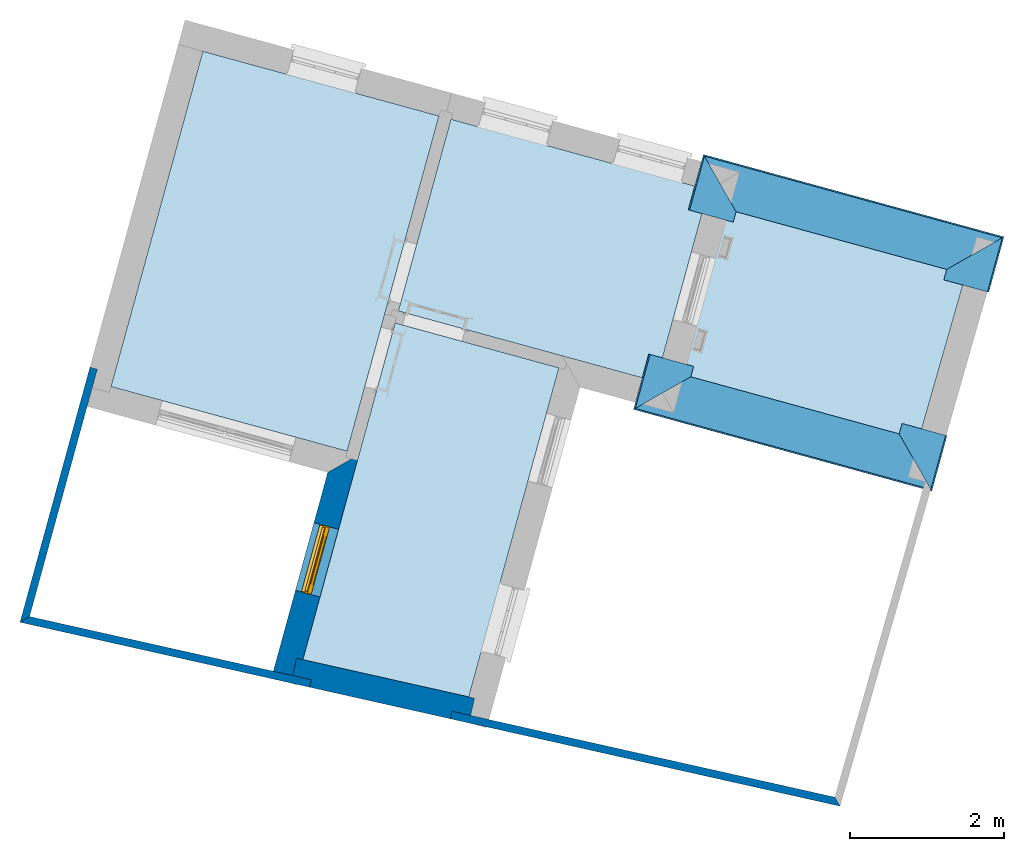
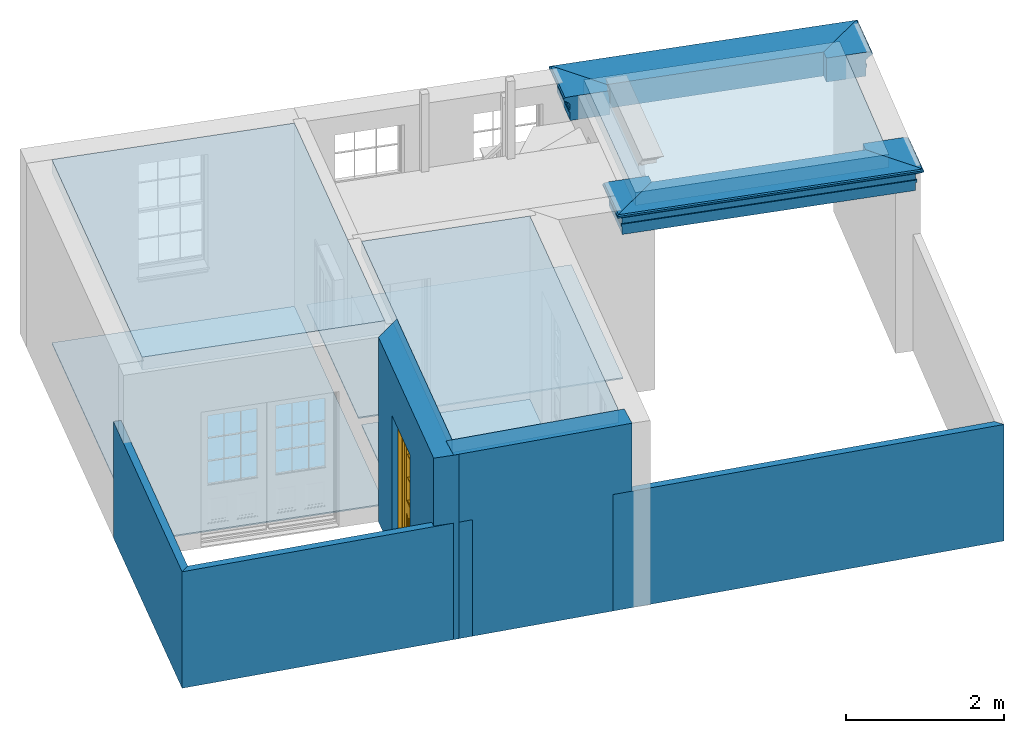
# One storey, part 1 of 7: 6 beams, 6 slabs, 5 walls, 1 door, 1 opening.
"""IFC4 building model written with IfcOpenShell, lengths in metres."""

from ifc_helpers import new_model, si_unit, frame, origin, origin_with_axes, place, context, subcontext, project, spatial, polyline, outline, extrude, clip, halfspace, faceted_brep, source, transform, mapped, material, layer, layer_set, layer_usage, material_profile, profile_set, profile_usage, type_object, type_shapes, element, fill, save


model = new_model("IFC4")

# Units and contexts
model_context = context("Model", 3, world=origin_with_axes())
body_context = subcontext(model_context, "Body", "Model", "MODEL_VIEW")
ifc_project = project(units=[si_unit("PLANEANGLEUNIT", "RADIAN"), si_unit("MASSUNIT", "GRAM", prefix="KILO"), si_unit("FORCEUNIT", "NEWTON", prefix="KILO"), si_unit("LENGTHUNIT", "METRE"), si_unit("AREAUNIT", "SQUARE_METRE"), si_unit("VOLUMEUNIT", "CUBIC_METRE")], contexts=[model_context, model_context])

# Sites, building, storey
site_1_placement = place(None, origin_with_axes())
site_1 = spatial("IfcSite", under=ifc_project, at=site_1_placement, Name="Tamar")
site_2_placement = place(site_1_placement, origin_with_axes())
site_2 = spatial("IfcSite", under=site_1, at=site_2_placement, Name="Site plot-29", CompositionType="ELEMENT")
building_placement = place(None, origin_with_axes())
building = spatial("IfcBuilding", under=site_2, at=building_placement, Name="Building plot-29", CompositionType="ELEMENT")
storey_placement = place(None, frame((0.0, 0.0, 25.0), z_axis=(0.0, 0.0, 1.0), x_axis=(1.0, 0.0, 0.0)))
storey = spatial("IfcBuildingStorey", under=building, at=storey_placement, Name="plot-29 0", CompositionType="ELEMENT", Elevation=25.0)

# Beams
ifc_material_profile_1 = material_profile(None, outline(polyline([(-0.26, 0.0), (-0.26, -0.37), (0.26, -0.37), (0.26, -0.235), (0.275, -0.235), (0.275, -0.2), (0.26, -0.2), (0.26, -0.11), (0.275, -0.11), (0.278, -0.098), (0.284, -0.089), (0.293, -0.083), (0.305, -0.08), (0.305, -0.065), (0.315, -0.065), (0.326, -0.063), (0.336, -0.056), (0.343, -0.047), (0.345, -0.035), (0.343, -0.023), (0.336, -0.014), (0.326, -0.007), (0.315, -0.005), (0.26, 0.0), (-0.26, 0.0)])))
ifc_profile_set_1 = profile_set([ifc_material_profile_1])
ifc_profile_usage_1 = profile_usage(ifc_profile_set_1)
beam_type_1 = type_object("IfcBeamType", Name="external beam_0", PredefinedType="NOTDEFINED", material=ifc_profile_set_1)
beam_1_placement = place(storey_placement, frame((276.869402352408, 260.588744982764, 2.85), z_axis=(0.264255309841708, 0.964452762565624, 0.0), x_axis=(-0.964452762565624, 0.264255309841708, 0.0)))
element("IfcBeam", 1, at=beam_1_placement, inside=storey, type_object=beam_type_1, material=ifc_profile_usage_1, Name="external beam_0", context=body_context, shape_type="Clipping", body=[
    clip(clip(extrude(outline(polyline([(-0.26, 0.0), (-0.26, -0.37), (0.26, -0.37), (0.26, -0.235), (0.275, -0.235), (0.275, -0.2), (0.26, -0.2), (0.26, -0.11), (0.275, -0.11), (0.278, -0.098), (0.284, -0.089), (0.293, -0.083), (0.305, -0.08), (0.305, -0.065), (0.315, -0.065), (0.326, -0.063), (0.336, -0.056), (0.343, -0.047), (0.345, -0.035), (0.343, -0.023), (0.336, -0.014), (0.326, -0.007), (0.315, -0.005), (0.26, 0.0), (-0.26, 0.0)])), origin_with_axes(), (0.0, 0.0, 1.0), 2.39999999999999), halfspace(frame((0.0, 0.0, 1.39999999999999), z_axis=(-6.12323399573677e-17, 0.0, -1.0), x_axis=(0.0, 1.0, 0.0)), True)), halfspace(frame((0.0, 0.0, 1.0), z_axis=(-0.707106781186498, 0.0, -0.707106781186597), x_axis=(0.0, 1.0, 0.0)), False)),
])
ifc_profile_usage_2 = profile_usage(ifc_profile_set_1)
beam_2_placement = place(storey_placement, frame((281.301153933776, 260.411324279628, 2.85), z_axis=(-0.964452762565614, 0.264255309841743, 0.0), x_axis=(-0.264255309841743, -0.964452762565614, 0.0)))
element("IfcBeam", 2, at=beam_2_placement, inside=storey, type_object=beam_type_1, material=ifc_profile_usage_2, Name="external beam_0", context=body_context, shape_type="Clipping", body=[
    clip(clip(extrude(outline(polyline([(-0.26, 0.0), (-0.26, -0.37), (0.26, -0.37), (0.26, -0.235), (0.275, -0.235), (0.275, -0.2), (0.26, -0.2), (0.26, -0.11), (0.275, -0.11), (0.278, -0.098), (0.284, -0.089), (0.293, -0.083), (0.305, -0.08), (0.305, -0.065), (0.315, -0.065), (0.326, -0.063), (0.336, -0.056), (0.343, -0.047), (0.345, -0.035), (0.343, -0.023), (0.336, -0.014), (0.326, -0.007), (0.315, -0.005), (0.26, 0.0), (-0.26, 0.0)])), origin_with_axes(), (0.0, 0.0, 1.0), 5.32109941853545), halfspace(frame((0.0, 0.0, 4.32109941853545), z_axis=(0.707106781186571, 0.0, -0.707106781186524), x_axis=(0.0, 1.0, 0.0)), True)), halfspace(frame((0.0, 0.0, 1.0), z_axis=(-0.707106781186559, 0.0, -0.707106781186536), x_axis=(0.0, 1.0, 0.0)), False)),
])
ifc_profile_usage_3 = profile_usage(ifc_profile_set_1)
beam_3_placement = place(storey_placement, frame((280.706658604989, 262.025813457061, 2.85), z_axis=(-0.264255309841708, -0.964452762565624, 0.0), x_axis=(0.964452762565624, -0.264255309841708, 0.0)))
element("IfcBeam", 3, at=beam_3_placement, inside=storey, type_object=beam_type_1, material=ifc_profile_usage_3, Name="external beam_0", context=body_context, shape_type="Clipping", body=[
    clip(clip(extrude(outline(polyline([(-0.26, 0.0), (-0.26, -0.37), (0.26, -0.37), (0.26, -0.235), (0.275, -0.235), (0.275, -0.2), (0.26, -0.2), (0.26, -0.11), (0.275, -0.11), (0.278, -0.098), (0.284, -0.089), (0.293, -0.083), (0.305, -0.08), (0.305, -0.065), (0.315, -0.065), (0.326, -0.063), (0.336, -0.056), (0.343, -0.047), (0.345, -0.035), (0.343, -0.023), (0.336, -0.014), (0.326, -0.007), (0.315, -0.005), (0.26, 0.0), (-0.26, 0.0)])), origin_with_axes(), (0.0, 0.0, 1.0), 2.39999999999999), halfspace(frame((0.0, 0.0, 1.39999999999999), z_axis=(0.707106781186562, 0.0, -0.707106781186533), x_axis=(0.0, 1.0, 0.0)), True)), halfspace(frame((0.0, 0.0, 1.0), z_axis=(1.60812264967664e-16, 0.0, -1.0), x_axis=(0.0, 1.0, 0.0)), False)),
])
ifc_material_profile_2 = material_profile(None, outline(polyline([(-0.26, 0.0), (-0.26, -0.37), (0.26, -0.37), (0.26, -0.235), (0.275, -0.235), (0.275, -0.2), (0.26, -0.2), (0.26, -0.11), (0.275, -0.11), (0.278, -0.098), (0.284, -0.089), (0.293, -0.083), (0.305, -0.08), (0.305, -0.065), (0.315, -0.065), (0.326, -0.063), (0.336, -0.056), (0.343, -0.047), (0.345, -0.035), (0.343, -0.023), (0.336, -0.014), (0.326, -0.007), (0.315, -0.005), (0.26, 0.0), (-0.26, 0.0)])))
ifc_profile_set_2 = profile_set([ifc_material_profile_2])
ifc_profile_usage_4 = profile_usage(ifc_profile_set_2)
beam_type_2 = type_object("IfcBeamType", Name="external beam_0", PredefinedType="NOTDEFINED", material=ifc_profile_set_2)
beam_4_placement = place(storey_placement, frame((281.354520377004, 264.273621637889, 2.85), z_axis=(-0.264255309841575, -0.96445276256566, 0.0), x_axis=(0.96445276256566, -0.264255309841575, 0.0)))
element("IfcBeam", 4, at=beam_4_placement, inside=storey, type_object=beam_type_2, material=ifc_profile_usage_4, Name="external beam_0", context=body_context, shape_type="Clipping", body=[
    clip(clip(extrude(outline(polyline([(-0.26, 0.0), (-0.26, -0.37), (0.26, -0.37), (0.26, -0.235), (0.275, -0.235), (0.275, -0.2), (0.26, -0.2), (0.26, -0.11), (0.275, -0.11), (0.278, -0.098), (0.284, -0.089), (0.293, -0.083), (0.305, -0.08), (0.305, -0.065), (0.315, -0.065), (0.326, -0.063), (0.336, -0.056), (0.343, -0.047), (0.345, -0.035), (0.343, -0.023), (0.336, -0.014), (0.326, -0.007), (0.315, -0.005), (0.26, 0.0), (-0.26, 0.0)])), origin_with_axes(), (0.0, 0.0, 1.0), 2.39999999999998), halfspace(frame((0.0, 0.0, 1.39999999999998), z_axis=(1.23732655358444e-14, 0.0, -1.0), x_axis=(0.0, 1.0, 0.0)), True)), halfspace(frame((0.0, 0.0, 1.0), z_axis=(-0.707106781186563, 0.0, -0.707106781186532), x_axis=(0.0, 1.0, 0.0)), False)),
])
ifc_profile_usage_5 = profile_usage(ifc_profile_set_2)
beam_5_placement = place(storey_placement, frame((276.893028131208, 264.459191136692, 2.85), z_axis=(0.964452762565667, -0.264255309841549, 0.0), x_axis=(0.264255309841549, 0.964452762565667, 0.0)))
element("IfcBeam", 5, at=beam_5_placement, inside=storey, type_object=beam_type_2, material=ifc_profile_usage_5, Name="external beam_0", context=body_context, shape_type="Clipping", body=[
    clip(clip(extrude(outline(polyline([(-0.26, 0.0), (-0.26, -0.37), (0.26, -0.37), (0.26, -0.235), (0.275, -0.235), (0.275, -0.2), (0.26, -0.2), (0.26, -0.11), (0.275, -0.11), (0.278, -0.098), (0.284, -0.089), (0.293, -0.083), (0.305, -0.08), (0.305, -0.065), (0.315, -0.065), (0.326, -0.063), (0.336, -0.056), (0.343, -0.047), (0.345, -0.035), (0.343, -0.023), (0.336, -0.014), (0.326, -0.007), (0.315, -0.005), (0.26, 0.0), (-0.26, 0.0)])), origin_with_axes(), (0.0, 0.0, 1.0), 5.35193624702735), halfspace(frame((0.0, 0.0, 4.35193624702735), z_axis=(0.707106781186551, 0.0, -0.707106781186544), x_axis=(0.0, 1.0, 0.0)), True)), halfspace(frame((0.0, 0.0, 1.0), z_axis=(-0.707106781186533, 0.0, -0.707106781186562), x_axis=(0.0, 1.0, 0.0)), False)),
])
ifc_profile_usage_6 = profile_usage(ifc_profile_set_2)
beam_6_placement = place(storey_placement, frame((277.487523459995, 262.844701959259, 2.85), z_axis=(0.264255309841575, 0.96445276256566, 0.0), x_axis=(-0.96445276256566, 0.264255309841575, 0.0)))
element("IfcBeam", 6, at=beam_6_placement, inside=storey, type_object=beam_type_2, material=ifc_profile_usage_6, Name="external beam_0", context=body_context, shape_type="Clipping", body=[
    clip(clip(extrude(outline(polyline([(-0.26, 0.0), (-0.26, -0.37), (0.26, -0.37), (0.26, -0.235), (0.275, -0.235), (0.275, -0.2), (0.26, -0.2), (0.26, -0.11), (0.275, -0.11), (0.278, -0.098), (0.284, -0.089), (0.293, -0.083), (0.305, -0.08), (0.305, -0.065), (0.315, -0.065), (0.326, -0.063), (0.336, -0.056), (0.343, -0.047), (0.345, -0.035), (0.343, -0.023), (0.336, -0.014), (0.326, -0.007), (0.315, -0.005), (0.26, 0.0), (-0.26, 0.0)])), origin_with_axes(), (0.0, 0.0, 1.0), 2.39999999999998), halfspace(frame((0.0, 0.0, 1.39999999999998), z_axis=(0.707106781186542, 0.0, -0.707106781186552), x_axis=(0.0, 1.0, 0.0)), True)), halfspace(frame((0.0, 0.0, 1.0), z_axis=(1.23732655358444e-14, 0.0, -1.0), x_axis=(0.0, 1.0, 0.0)), False)),
])

# Slabs
slab_1_placement = place(storey_placement, frame((275.742884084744, 261.851314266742, 2.65)))
element("IfcSlab", 7, at=slab_1_placement, inside=storey, Name="My Slab", ObjectType="Slab", PredefinedType="FLOOR", context=body_context, shape_type="SweptSolid", body=[
    extrude(outline(polyline([(0.0, 0.0), (-2.12536575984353, 0.58233975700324), (-3.3218194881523, -3.78435813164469), (-1.16918607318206, -4.26717911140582), (0.0, 0.0)])), origin_with_axes(), (0.0, 0.0, 1.0), 0.2),
])
slab_2_placement = place(storey_placement, frame((275.742884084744, 261.851314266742, 0.0)))
element("IfcSlab", 8, at=slab_2_placement, inside=storey, Name="My Slab", ObjectType="Slab", PredefinedType="FLOOR", context=body_context, shape_type="SweptSolid", body=[
    extrude(outline(polyline([(0.0, 0.0), (-2.12536575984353, 0.58233975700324), (-3.3218194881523, -3.78435813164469), (-1.16918607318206, -4.26717911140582), (0.0, 0.0)])), origin_with_axes(), (0.0, 0.0, 1.0), 0.02),
])
slab_3_placement = place(storey_placement, frame((273.659799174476, 262.587966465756, 0.0)))
element("IfcSlab", 9, at=slab_3_placement, inside=storey, Name="My Slab", ObjectType="Slab", PredefinedType="FLOOR", context=body_context, shape_type="SweptSolid", body=[
    extrude(outline(polyline([(0.0, 0.0), (3.34068647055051, -0.915331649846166), (4.02222885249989, 1.57209398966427), (0.681542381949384, 2.48742563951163), (0.0, 0.0)])), origin_with_axes(), (0.0, 0.0, 1.0), 0.02),
])
slab_4_placement = place(storey_placement, frame((280.358705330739, 260.752499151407, 2.65)))
element("IfcSlab", 10, at=slab_4_placement, inside=storey, Name="My Slab", ObjectType="Slab", PredefinedType="FLOOR", context=body_context, shape_type="SweptSolid", body=[
    extrude(outline(polyline([(0.0, 0.0), (0.709545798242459, 2.47975284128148), (-2.52236486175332, 3.36528045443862), (-3.20390724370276, 0.877854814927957), (0.0, 0.0)])), origin_with_axes(), (0.0, 0.0, 1.0), 0.2),
])
slab_5_placement = place(storey_placement, frame((271.124319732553, 265.95684025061, 2.65)))
element("IfcSlab", 11, at=slab_5_placement, inside=storey, Name="My Slab", ObjectType="Slab", PredefinedType="FLOOR", context=body_context, shape_type="SweptSolid", body=[
    extrude(outline(polyline([(0.0, 0.0), (-1.19153948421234, -4.34876236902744), (1.87116989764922, -5.18792966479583), (3.06270938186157, -0.83916729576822), (0.0, 0.0)])), origin_with_axes(), (0.0, 0.0, 1.0), 0.2),
])
slab_6_placement = place(storey_placement, frame((271.124319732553, 265.95684025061, 0.0)))
element("IfcSlab", 12, at=slab_6_placement, inside=storey, Name="My Slab", ObjectType="Slab", PredefinedType="FLOOR", context=body_context, shape_type="SweptSolid", body=[
    extrude(outline(polyline([(0.0, 0.0), (-1.19153948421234, -4.34876236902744), (1.87116989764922, -5.18792966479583), (3.06270938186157, -0.83916729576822), (0.0, 0.0)])), origin_with_axes(), (0.0, 0.0, 1.0), 0.02),
])

# Wall, opening, door
ifc_material_1 = material(Name="Masonry")
ifc_layer_1 = layer(ifc_material_1, 0.33, ventilated=False)
ifc_layer_set_1 = layer_set([ifc_layer_1], Name="exterior_0.08_0.25")
ifc_layer_usage_1 = layer_usage(ifc_layer_set_1, "AXIS2", "POSITIVE", -0.25)
wall_type_1 = type_object("IfcWallType", Name="exterior_0.08_0.25", PredefinedType="SOLIDWALL", material=ifc_layer_set_1)
wall_1_placement = place(storey_placement, frame((273.05150542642, 260.670613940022, 0.0), z_axis=(0.0, 0.0, 1.0), x_axis=(-0.264255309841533, -0.964452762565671, 0.0)))
wall_1 = element("IfcWall", 13, at=wall_1_placement, inside=storey, type_object=wall_type_1, material=ifc_layer_usage_1, Name="exterior", context=body_context, shape_type="SweptSolid", body=[
    extrude(outline(polyline([(-0.0800000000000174, 0.0800000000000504), (0.250000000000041, -0.249999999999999), (3.01153589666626, -0.250000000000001), (3.01153589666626, 0.0800000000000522), (-0.0800000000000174, 0.0800000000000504)])), origin_with_axes(), (0.0, 0.0, 1.0), 2.85),
])
opening_placement = place(wall_1_placement, frame((0.925767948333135, 0.0, 0.0199999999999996)))
opening = element("IfcOpeningElement", 14, at=opening_placement, cuts=wall_1, Name="My Opening", ObjectType="Opening", context=body_context, shape_type="SweptSolid", body=[
    extrude(outline(polyline([(0.0, -0.270000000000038), (0.910000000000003, -0.269999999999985), (0.909999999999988, 1.10000000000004), (-1.37667655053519e-14, 1.09999999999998), (0.0, -0.270000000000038)])), origin_with_axes(), (0.0, 0.0, 1.0), 2.08),
])
door_type = type_object("IfcDoorType", Name="door_panelled", OperationType="SINGLE_SWING_LEFT", PredefinedType="NOTDEFINED")
shared_shape = source(origin(), body_context, "Body", "Brep", [
    faceted_brep([(0.545, 0.195, 0.265), (0.745, 0.195, 0.265), (0.745, 0.2, 0.265), (0.545, 0.2, 0.265), (0.745, 0.2, 0.58), (0.545, 0.2, 0.58), (0.545, 0.195, 0.58), (0.515, 0.19, 0.235), (0.775, 0.19, 0.235), (0.745, 0.195, 0.58), (0.515, 0.19, 0.61), (0.515, 0.185, 0.235), (0.775, 0.185, 0.235), (0.775, 0.19, 0.61), (0.515, 0.185, 0.61), (0.785, 0.185, 0.225), (0.505, 0.185, 0.225), (0.775, 0.185, 0.61), (0.505, 0.185, 0.62), (0.785, 0.185, 0.62), (0.505, 0.18, 0.225), (0.785, 0.18, 0.225), (0.505, 0.18, 0.62), (0.785, 0.18, 0.62), (0.883, 0.18, 0.075), (0.898, 0.18, 0.075), (0.405, 0.18, 0.62), (0.405, 0.18, 0.225), (0.027, 0.18, 0.075), (0.785, 0.18, 0.82), (0.125, 0.18, 0.82), (0.405, 0.185, 0.62), (0.405, 0.185, 0.225), (0.898, 0.18, 2.068), (0.027, 0.17, 0.075), (0.883, 0.17, 0.075), (0.125, 0.18, 0.225), (0.012, 0.18, 0.075), (0.785, 0.19, 0.82), (0.125, 0.19, 0.82), (0.125, 0.18, 0.62), (0.125, 0.185, 0.62), (0.395, 0.185, 0.61), (0.395, 0.185, 0.235), (0.125, 0.185, 0.225), (0.785, 0.18, 1.895), (0.027, 0.14, 0.045), (0.883, 0.14, 0.045), (0.558333, 0.19, 0.83), (0.351667, 0.19, 0.83), (0.125, 0.18, 1.895), (0.125, 0.19, 1.895), (0.785, 0.19, 1.895), (0.012, 0.18, 2.068), (0.135, 0.185, 0.61), (0.395, 0.19, 0.61), (0.395, 0.19, 0.235), (0.135, 0.185, 0.235), (0.027, 0.14, 0.027), (0.883, 0.14, 0.027), (0.568333, 0.19, 0.83), (0.558333, 0.22, 0.83), (0.351667, 0.22, 0.83), (0.341667, 0.19, 0.83), (0.135, 0.19, 1.185), (0.135, 0.19, 1.53), (0.775, 0.19, 1.53), (0.775, 0.19, 1.185), (0.135, 0.19, 0.61), (0.365, 0.195, 0.58), (0.365, 0.195, 0.265), (0.135, 0.19, 0.235), (0.568333, 0.19, 1.175), (0.558333, 0.19, 1.175), (0.775, 0.19, 0.83), (0.558333, 0.22, 1.175), (0.785, 0.22, 0.82), (0.125, 0.22, 0.82), (0.351667, 0.22, 1.175), (0.351667, 0.19, 1.175), (0.341667, 0.19, 1.175), (0.135, 0.19, 0.83), (0.135, 0.19, 1.175), (0.135, 0.22, 1.185), (0.135, 0.22, 1.53), (0.135, 0.19, 1.54), (0.351667, 0.19, 1.885), (0.558333, 0.19, 1.885), (0.775, 0.22, 1.53), (0.775, 0.22, 1.185), (0.775, 0.19, 1.175), (0.775, 0.19, 1.54), (0.165, 0.195, 0.58), (0.365, 0.2, 0.58), (0.365, 0.2, 0.265), (0.165, 0.195, 0.265), (0.568333, 0.22, 0.83), (0.568333, 0.22, 1.175), (0.568333, 0.19, 1.185), (0.558333, 0.19, 1.185), (0.775, 0.22, 0.83), (0.785, 0.23, 0.82), (0.125, 0.23, 0.82), (0.341667, 0.22, 0.83), (0.341667, 0.22, 1.175), (0.351667, 0.19, 1.185), (0.341667, 0.19, 1.185), (0.135, 0.22, 0.83), (0.341667, 0.22, 1.185), (0.125, 0.22, 1.895), (0.341667, 0.22, 1.53), (0.341667, 0.19, 1.53), (0.135, 0.19, 1.885), (0.341667, 0.19, 1.54), (0.341667, 0.19, 1.885), (0.558333, 0.22, 1.885), (0.351667, 0.22, 1.885), (0.568333, 0.19, 1.885), (0.785, 0.22, 1.895), (0.568333, 0.22, 1.185), (0.568333, 0.19, 1.53), (0.568333, 0.22, 1.53), (0.568333, 0.19, 1.54), (0.775, 0.19, 1.885), (0.165, 0.2, 0.58), (0.165, 0.2, 0.265), (0.775, 0.22, 1.175), (0.558333, 0.19, 1.53), (0.351667, 0.22, 1.185), (0.558333, 0.22, 1.185), (0.505, 0.23, 0.62), (0.405, 0.23, 0.62), (0.125, 0.23, 1.895), (0.785, 0.23, 1.895), (0.351667, 0.19, 1.53), (0.135, 0.22, 1.175), (0.135, 0.22, 1.54), (0.341667, 0.22, 1.54), (0.135, 0.22, 1.885), (0.351667, 0.19, 1.54), (0.558333, 0.22, 1.54), (0.558333, 0.19, 1.54), (0.351667, 0.22, 1.54), (0.775, 0.22, 1.54), (0.568333, 0.22, 1.54), (0.775, 0.22, 1.885), (0.558333, 0.22, 1.53), (0.405, 0.23, 0.225), (0.505, 0.23, 0.225), (0.125, 0.23, 0.62), (0.785, 0.23, 0.62), (0.012, 0.23, 2.068), (0.898, 0.23, 2.068), (0.351667, 0.22, 1.53), (0.341667, 0.22, 1.885), (0.568333, 0.22, 1.885), (0.405, 0.225, 0.225), (0.405, 0.225, 0.62), (0.505, 0.225, 0.62), (0.505, 0.225, 0.225), (0.898, 0.23, 0.027), (0.012, 0.23, 0.027), (0.125, 0.225, 0.62), (0.785, 0.225, 0.62), (0.395, 0.225, 0.235), (0.395, 0.225, 0.61), (0.125, 0.23, 0.225), (0.125, 0.225, 0.225), (0.515, 0.225, 0.61), (0.515, 0.225, 0.235), (0.785, 0.23, 0.225), (0.785, 0.225, 0.225), (0.135, 0.225, 0.61), (0.775, 0.225, 0.61), (0.135, 0.225, 0.235), (0.395, 0.22, 0.235), (0.395, 0.22, 0.61), (0.515, 0.22, 0.61), (0.515, 0.22, 0.235), (0.775, 0.225, 0.235), (0.135, 0.22, 0.61), (0.775, 0.22, 0.61), (0.135, 0.22, 0.235), (0.365, 0.215, 0.265), (0.365, 0.215, 0.58), (0.545, 0.215, 0.58), (0.545, 0.215, 0.265), (0.775, 0.22, 0.235), (0.165, 0.215, 0.58), (0.745, 0.215, 0.58), (0.165, 0.215, 0.265), (0.365, 0.21, 0.58), (0.365, 0.21, 0.265), (0.545, 0.21, 0.58), (0.545, 0.21, 0.265), (0.745, 0.215, 0.265), (0.165, 0.21, 0.58), (0.745, 0.21, 0.58), (0.165, 0.21, 0.265), (0.745, 0.21, 0.265), (0.885, 0.178, 0.025), (0.025, 0.178, 0.025), (0.025, 0.15, 0.025), (0.885, 0.15, 0.025), (0.9, 0.23, 0.025), (0.01, 0.23, 0.025), (0.9, 0.178, 0.025), (0.91, 0.23, 0.0), (0.0, 0.23, 0.0), (0.01, 0.178, 0.025), (0.9, 0.178, 2.07), (0.9, 0.23, 2.07), (0.885, 0.178, 2.055), (0.91, 0.23, 2.08), (0.01, 0.23, 2.07), (0.0, 0.23, 2.08), (0.01, 0.178, 2.07), (0.025, 0.178, 2.055), (0.0, 0.1, 2.08), (0.91, 0.1, 2.08), (0.01, 0.1, 2.07), (0.9, 0.1, 2.07), (0.01, 0.15, 2.07), (0.9, 0.15, 2.07), (0.0, 0.1, 0.0), (0.91, 0.1, 0.0), (0.01, 0.1, 0.025), (0.9, 0.1, 0.025), (0.01, 0.15, 0.025), (0.025, 0.15, 2.055), (0.9, 0.15, 0.025), (0.885, 0.15, 2.055), (0.898, 0.18, 0.027), (0.012, 0.18, 0.027), (0.883, 0.18, 0.027), (0.027, 0.18, 0.027)], [[[0, 1, 2, 3]], [[2, 4, 5, 3]], [[0, 3, 5, 6]], [[1, 0, 7, 8]], [[9, 4, 2, 1]], [[9, 6, 5, 4]], [[0, 6, 10, 7]], [[8, 7, 11, 12]], [[8, 13, 9, 1]], [[13, 10, 6, 9]], [[7, 10, 14, 11]], [[15, 12, 11, 16]], [[12, 17, 13, 8]], [[17, 14, 10, 13]], [[18, 16, 11, 14]], [[15, 19, 17, 12]], [[15, 16, 20, 21]], [[14, 17, 19, 18]], [[16, 18, 22, 20]], [[21, 23, 19, 15]], [[24, 25, 21, 20]], [[23, 22, 18, 19]], [[20, 22, 26, 27]], [[23, 21, 25]], [[28, 24, 20, 27]], [[22, 23, 29]], [[29, 30, 26, 22]], [[27, 26, 31, 32]], [[23, 25, 33, 29]], [[34, 35, 24, 28]], [[28, 27, 36, 37]], [[38, 39, 30, 29]], [[26, 30, 40]], [[26, 40, 41, 31]], [[42, 43, 32, 31]], [[32, 44, 36, 27]], [[33, 45, 29]], [[46, 47, 35, 34]], [[36, 40, 37]], [[39, 38, 48, 49]], [[50, 30, 39, 51]], [[29, 45, 52, 38]], [[53, 37, 40, 30]], [[44, 41, 40, 36]], [[31, 41, 54, 42]], [[43, 42, 55, 56]], [[57, 44, 32, 43]], [[50, 45, 33, 53]], [[47, 46, 58, 59]], [[60, 48, 38]], [[49, 48, 61, 62]], [[49, 63, 39]], [[50, 53, 30]], [[51, 39, 64, 65]], [[45, 50, 51, 52]], [[66, 67, 38, 52]], [[57, 54, 41, 44]], [[42, 54, 68, 55]], [[56, 55, 69, 70]], [[56, 71, 57, 43]], [[60, 72, 73, 48]], [[60, 38, 74]], [[48, 73, 75, 61]], [[76, 77, 62, 61]], [[62, 78, 79, 49]], [[49, 79, 80, 63]], [[63, 81, 39]], [[82, 64, 39]], [[65, 64, 83, 84]], [[85, 51, 65]], [[52, 51, 86, 87]], [[88, 89, 67, 66]], [[90, 38, 67]], [[91, 66, 52]], [[71, 68, 54, 57]], [[55, 68, 92, 69]], [[69, 93, 94, 70]], [[70, 95, 71, 56]], [[96, 97, 72, 60]], [[73, 72, 98, 99]], [[74, 38, 90]], [[100, 96, 60, 74]], [[75, 73, 79, 78]], [[61, 75, 97, 96]], [[101, 102, 77, 76]], [[77, 103, 62]], [[96, 76, 61]], [[103, 104, 78, 62]], [[80, 79, 105, 106]], [[63, 80, 104, 103]], [[81, 63, 103, 107]], [[81, 82, 39]], [[106, 64, 82, 80]], [[106, 108, 83, 64]], [[84, 83, 77, 109]], [[110, 111, 65, 84]], [[112, 51, 85]], [[113, 85, 65, 111]], [[114, 86, 51]], [[115, 87, 86, 116]], [[117, 52, 87]], [[118, 76, 89, 88]], [[119, 98, 67, 89]], [[120, 121, 88, 66]], [[67, 98, 72, 90]], [[91, 122, 120, 66]], [[91, 52, 123]], [[95, 92, 68, 71]], [[69, 92, 124, 93]], [[94, 93, 124, 125]], [[94, 125, 95, 70]], [[72, 97, 126, 90]], [[127, 99, 98, 120]], [[99, 105, 79, 73]], [[74, 90, 126, 100]], [[96, 100, 76]], [[128, 129, 75, 78]], [[97, 75, 129, 119]], [[130, 131, 102, 101]], [[109, 77, 102, 132]], [[133, 101, 76, 118]], [[77, 107, 103]], [[78, 104, 108, 128]], [[111, 106, 105, 134]], [[104, 80, 82, 135]], [[107, 135, 82, 81]], [[110, 108, 106, 111]], [[104, 135, 83, 108]], [[83, 135, 77]], [[136, 84, 109]], [[110, 84, 136, 137]], [[114, 51, 112]], [[85, 136, 138, 112]], [[113, 137, 136, 85]], [[111, 134, 139, 113]], [[86, 114, 113, 139]], [[140, 141, 87, 115]], [[139, 142, 116, 86]], [[109, 118, 115, 116]], [[117, 123, 52]], [[117, 87, 141, 122]], [[126, 89, 76]], [[143, 118, 88]], [[120, 98, 119, 121]], [[119, 89, 126, 97]], [[144, 143, 88, 121]], [[144, 122, 91, 143]], [[127, 120, 122, 141]], [[143, 91, 123, 145]], [[124, 92, 95, 125]], [[146, 129, 99, 127]], [[99, 129, 128, 105]], [[100, 126, 76]], [[121, 119, 129, 146]], [[147, 131, 130, 148]], [[131, 149, 102]], [[130, 101, 150]], [[102, 151, 132]], [[118, 109, 132, 133]], [[101, 133, 152]], [[107, 77, 135]], [[153, 128, 108, 110]], [[134, 105, 128, 153]], [[109, 138, 136]], [[153, 110, 137, 142]], [[154, 114, 112, 138]], [[137, 113, 114, 154]], [[141, 139, 134, 127]], [[141, 140, 142, 139]], [[144, 140, 115, 155]], [[142, 137, 154, 116]], [[155, 115, 118]], [[116, 154, 109]], [[117, 155, 145, 123]], [[122, 144, 155, 117]], [[143, 145, 118]], [[121, 146, 140, 144]], [[146, 127, 134, 153]], [[156, 157, 131, 147]], [[148, 130, 158, 159]], [[148, 160, 161, 147]], [[157, 162, 149, 131]], [[161, 151, 102, 149]], [[101, 152, 160, 150]], [[163, 158, 130, 150]], [[151, 152, 133, 132]], [[154, 138, 109]], [[142, 140, 146, 153]], [[145, 155, 118]], [[157, 156, 164, 165]], [[147, 166, 167, 156]], [[168, 169, 159, 158]], [[170, 148, 159, 171]], [[148, 170, 160]], [[166, 147, 161]], [[172, 162, 157, 165]], [[166, 149, 162, 167]], [[166, 161, 149]], [[150, 160, 170]], [[163, 173, 168, 158]], [[171, 163, 150, 170]], [[174, 164, 156, 167]], [[175, 176, 165, 164]], [[169, 168, 177, 178]], [[171, 159, 169, 179]], [[167, 162, 172, 174]], [[176, 180, 172, 165]], [[179, 173, 163, 171]], [[181, 177, 168, 173]], [[164, 174, 182, 175]], [[183, 184, 176, 175]], [[178, 177, 185, 186]], [[179, 169, 178, 187]], [[174, 172, 180, 182]], [[184, 188, 180, 176]], [[187, 181, 173, 179]], [[189, 185, 177, 181]], [[175, 182, 190, 183]], [[191, 184, 183, 192]], [[185, 193, 194, 186]], [[187, 178, 186, 195]], [[182, 180, 188, 190]], [[191, 196, 188, 184]], [[195, 189, 181, 187]], [[197, 193, 185, 189]], [[183, 190, 198, 192]], [[198, 196, 191, 192]], [[194, 193, 197, 199]], [[195, 186, 194, 199]], [[188, 196, 198, 190]], [[197, 189, 195, 199]], [[200, 201, 202, 203]], [[201, 200, 204, 205]], [[206, 204, 200]], [[204, 207, 208, 205]], [[209, 201, 205]], [[210, 211, 204, 206]], [[206, 200, 212, 210]], [[211, 213, 207, 204]], [[214, 205, 208, 215]], [[216, 217, 201, 209]], [[205, 214, 216, 209]], [[216, 214, 211, 210]], [[210, 212, 217, 216]], [[214, 215, 213, 211]], [[218, 219, 213, 215]], [[219, 218, 220, 221]], [[221, 220, 222, 223]], [[215, 208, 224, 218]], [[225, 224, 208, 207]], [[224, 226, 220, 218]], [[224, 225, 227, 226]], [[219, 225, 207, 213]], [[228, 222, 220, 226]], [[219, 221, 227, 225]], [[226, 227, 203, 202]], [[202, 229, 222, 228]], [[228, 226, 202]], [[227, 221, 223, 230]], [[230, 203, 227]], [[217, 229, 202, 201]], [[231, 223, 222, 229]], [[230, 223, 231, 203]], [[231, 229, 217, 212]], [[212, 200, 203, 231]], [[33, 152, 151, 53]], [[25, 160, 152, 33]], [[161, 37, 53, 151]], [[232, 160, 25]], [[161, 233, 37]], [[160, 232, 234]], [[24, 234, 232, 25]], [[233, 161, 235]], [[37, 233, 235, 28]], [[161, 160, 234, 235]], [[35, 47, 234, 24]], [[28, 235, 46, 34]], [[58, 235, 234, 59]], [[59, 234, 47]], [[58, 46, 235]]]),
])
type_shapes(door_type, [shared_shape])
door_placement = place(storey_placement, frame((272.546464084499, 259.849103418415, 0.0199999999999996), z_axis=(0.0, 0.0, 1.0), x_axis=(-0.240472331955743, -0.877652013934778, 0.0)))
door = element("IfcDoor", 15, at=door_placement, inside=storey, type_object=door_type, Name="kitchen outside door", OverallHeight=2.08, OverallWidth=0.91, context=body_context, shape_type="MappedRepresentation", body=[
    mapped(shared_shape, transform((0.0, 0.0, 0.0), scale=1.0)),
])
fill(opening, door)

# Walls
ifc_material_2 = material(Name="Masonry")
ifc_layer_2 = layer(ifc_material_2, 0.33, ventilated=False)
ifc_layer_set_2 = layer_set([ifc_layer_2], Name="party_0.08_0.25")
ifc_layer_usage_2 = layer_usage(ifc_layer_set_2, "AXIS2", "POSITIVE", -0.25)
wall_type_2 = type_object("IfcWallType", Name="party_0.08_0.25", PredefinedType="SOLIDWALL", material=ifc_layer_set_2)
wall_2_placement = place(storey_placement, frame((272.321754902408, 258.007243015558, 0.0), z_axis=(0.0, 0.0, 1.0), x_axis=(0.975757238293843, -0.218855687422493, 0.0)))
element("IfcWall", 16, at=wall_2_placement, inside=storey, type_object=wall_type_2, material=ifc_layer_usage_2, Name="party", context=body_context, shape_type="SweptSolid", body=[
    extrude(outline(polyline([(-1.04756067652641e-14, 0.0799999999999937), (-9.5938422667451e-15, -0.250000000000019), (2.36629105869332, -0.250000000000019), (2.36629105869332, 0.0799999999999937), (-1.04756067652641e-14, 0.0799999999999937)])), origin_with_axes(), (0.0, 0.0, 1.0), 2.85),
])
ifc_material_3 = material(Name="Masonry")
ifc_layer_3 = layer(ifc_material_3, 0.1, ventilated=False)
ifc_layer_set_3 = layer_set([ifc_layer_3], Name="fence_-0.15_0.25")
ifc_layer_usage_3 = layer_usage(ifc_layer_set_3, "AXIS2", "POSITIVE", -0.25)
wall_type_3 = type_object("IfcWallType", Name="fence_-0.15_0.25", PredefinedType="SOLIDWALL", material=ifc_layer_set_3)
wall_3_placement = place(storey_placement, frame((274.630680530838, 257.489366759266, 0.0), z_axis=(0.0, 0.0, 1.0), x_axis=(0.975757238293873, -0.21885568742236, 0.0)))
element("IfcWall", 17, at=wall_3_placement, inside=storey, type_object=wall_type_3, material=ifc_layer_usage_3, Name="fence", context=body_context, shape_type="SweptSolid", body=[
    extrude(outline(polyline([(-0.250000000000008, -0.150000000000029), (-0.249999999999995, -0.250000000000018), (4.93315106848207, -0.250000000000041), (4.83879364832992, -0.150000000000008), (-0.250000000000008, -0.150000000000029)])), origin_with_axes(), (0.0, 0.0, 1.0), 1.8),
])
wall_4_placement = place(storey_placement, frame((269.834483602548, 261.552062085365, 0.0), z_axis=(0.0, 0.0, 1.0), x_axis=(-0.264255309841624, -0.964452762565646, 0.0)))
element("IfcWall", 18, at=wall_4_placement, inside=storey, type_object=wall_type_3, material=ifc_layer_usage_3, Name="fence", context=body_context, shape_type="SweptSolid", body=[
    extrude(outline(polyline([(-0.249999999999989, -0.149999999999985), (-0.250000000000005, -0.249999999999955), (3.17970271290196, -0.249999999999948), (3.07491071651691, -0.150000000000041), (-0.249999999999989, -0.149999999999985)])), origin_with_axes(), (0.0, 0.0, 1.0), 1.8),
])
wall_5_placement = place(storey_placement, frame((269.06345988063, 258.73805634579, 0.0), z_axis=(0.0, 0.0, 1.0), x_axis=(0.975757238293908, -0.218855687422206, 0.0)))
element("IfcWall", 19, at=wall_5_placement, inside=storey, type_object=wall_type_3, material=ifc_layer_usage_3, Name="fence", context=body_context, shape_type="SweptSolid", body=[
    extrude(outline(polyline([(-0.157187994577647, -0.149999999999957), (-0.261979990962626, -0.24999999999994), (3.58924760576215, -0.249999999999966), (3.58924760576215, -0.149999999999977), (-0.157187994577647, -0.149999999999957)])), origin_with_axes(), (0.0, 0.0, 1.0), 1.8),
])

save(model, "model.ifc")
